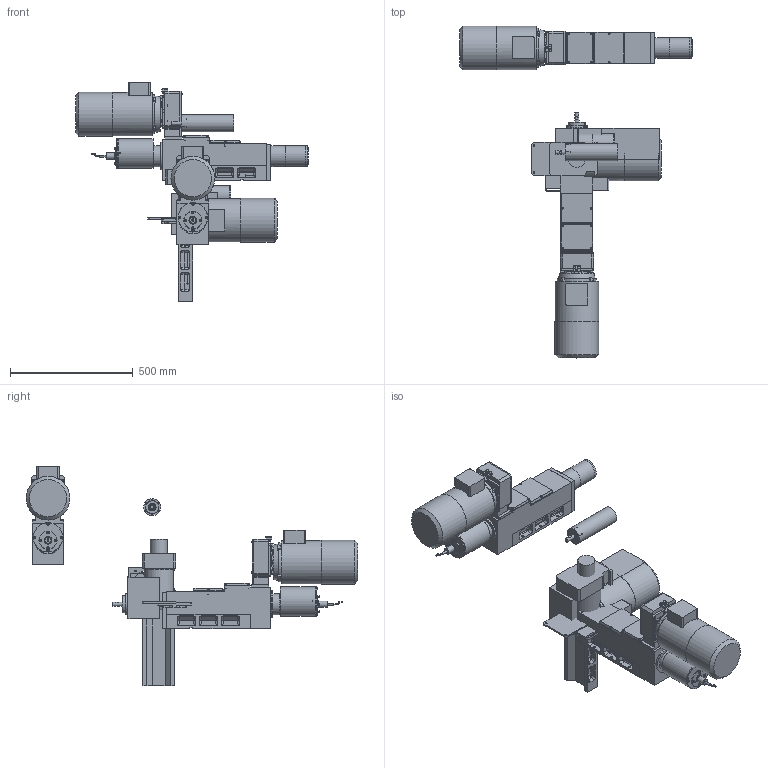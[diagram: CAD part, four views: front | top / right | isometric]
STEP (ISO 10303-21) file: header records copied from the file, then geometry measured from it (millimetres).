
FILE_DESCRIPTION( ( 'STEP AP203' ), '1' );
FILE_NAME( 'C:/Documents and Settings/Saverio/Desktop/disegni ironcad/unità serie 2/MC216 (ex MC220)/MC 216_A01_P.stp', '2014-03-25T10:06:40', ( ' ' ), ( ' ' ), 'XStep 1.0', ' ', ' ' );
FILE_SCHEMA( ( 'CONFIG_CONTROL_DESIGN' ) );
Length unit declared in the file: metre
Products named in the file (49): Assem1; Assem2; Assem3; Assem4; 1; 2; 3; 4; 5; 6; 7; 8; 9; 10; 11; 12; 13; 14; 15; 16; 17; 18; 19; 20; 21; 22; 23; 24; 25; 26; 27; 28; 29; 30; 31; 32; 33; 34; 35; 36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
Bounding box: 950 x 1353.73 x 894.21 mm (x, y, z)
Volume: 58453368.3 mm3; surface area: 4305759.8 mm2
Topology: 137 solids, 137 shells, 3245 faces, 7313 edges, 4433 vertices
Faces by surface type: plane 1716, cylinder 822, cone 472, bspline 126, sphere 60, torus 49
Full cylindrical faces by diameter (mm): 5 x66, 5.25 x12, 5.5 x33, 6.5 x18, 6.637 x15, 6.647 x12, 6.75 x16, 7 x3, 8 x3, 8.385 x3, 8.5 x48, 8.75 x18, 18 x9, 20 x3, 24 x3, 26 x3, 30 x6, 31.2 x3, 52 x3, 53 x3, 54 x6, 70 x10, 74 x6, 76 x3, 80 x8, 84.5 x4, 85 x4, 86 x3, 95 x3, 112 x3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
Entity records: 32244 total; most frequent: CARTESIAN_POINT 7850, DIRECTION 4655, ORIENTED_EDGE 4078, EDGE_CURVE 2039, AXIS2_PLACEMENT_3D 1747, EDGE_LOOP 1473, VERTEX_POINT 1403, FACE_OUTER_BOUND 1199
